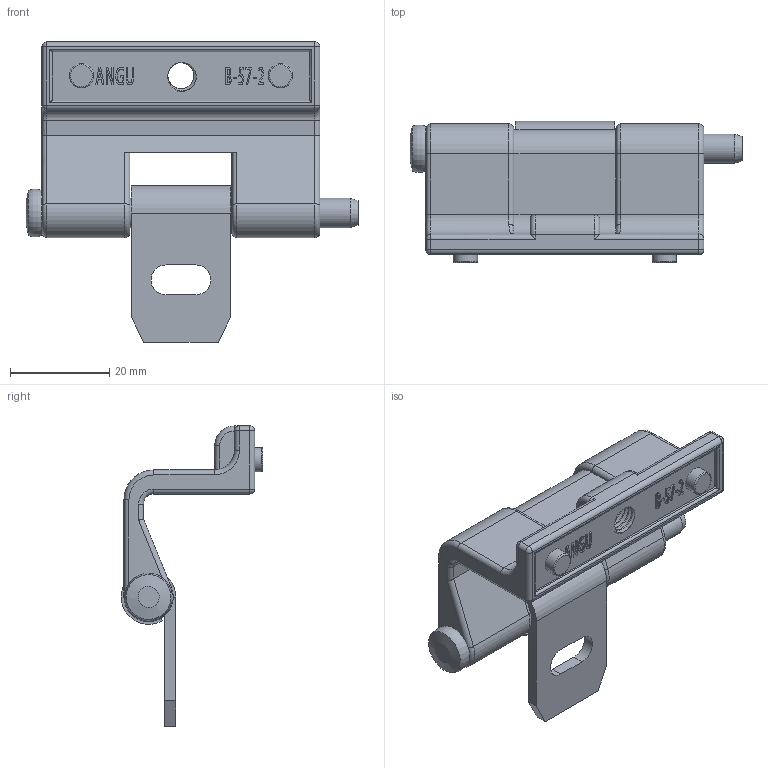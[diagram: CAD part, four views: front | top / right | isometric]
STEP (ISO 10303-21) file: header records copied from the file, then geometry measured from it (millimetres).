
FILE_DESCRIPTION (( 'STEP AP203' ), '1' );
FILE_NAME ('B-57-2 不鏽鋼鉸鏈.stp', '2022-05-04T03:05:26', ( '' ), ( '' ), 'SwSTEP 2.0', 'SolidWorks 2020', '' );
FILE_SCHEMA (( 'CONFIG_CONTROL_DESIGN' ));
Length unit declared in the file: millimetre
Products named in the file (1): B-57-2 不鏽鋼鉸鏈
Bounding box: 66.75 x 28.45 x 60.35 mm (x, y, z)
Volume: 17660.4 mm3; surface area: 11727.6 mm2
Topology: 2 solids, 2 shells, 628 faces, 1746 edges, 1133 vertices
Faces by surface type: plane 495, cylinder 54, bspline 52, torus 19, sphere 7, cone 1
Full cylindrical faces by diameter (mm): 4.9 x2, 5.9 x1, 6.15 x2
Entity records: 23208 total; most frequent: CARTESIAN_POINT 7291, ORIENTED_EDGE 3452, DIRECTION 3058, EDGE_CURVE 1726, LINE 1308, VECTOR 1308, VERTEX_POINT 1130, AXIS2_PLACEMENT_3D 875
